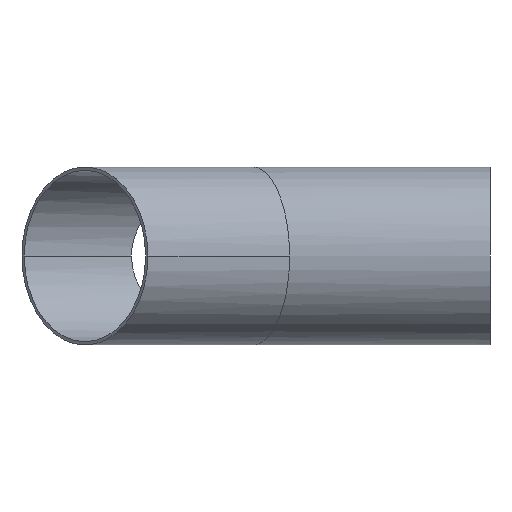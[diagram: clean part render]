
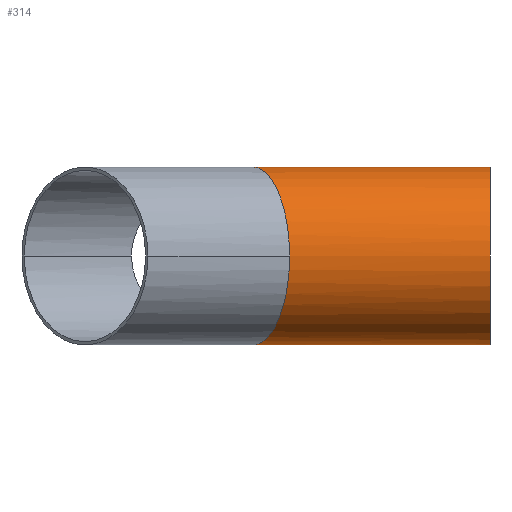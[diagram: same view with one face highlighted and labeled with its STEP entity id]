
A CAD part, left-side view. The second image highlights one B-rep face of the part: STEP entity #314.
In plain terms, the highlighted cylindrical face has radius 76.2 mm (diameter 152.4 mm), a partial arc.
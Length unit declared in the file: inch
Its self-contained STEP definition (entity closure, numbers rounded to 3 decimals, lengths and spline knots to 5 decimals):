
#16 = VECTOR ( 'NONE', #265, 39.37008 ) ;
#17 = CARTESIAN_POINT ( 'NONE',  ( 0., 8., -3. ) ) ;
#36 = FACE_OUTER_BOUND ( 'NONE', #183, .T. ) ;
#48 = DIRECTION ( 'NONE',  ( 0., 0., -1. ) ) ;
#51 = ORIENTED_EDGE ( 'NONE', *, *, #198, .T. ) ;
#52 = DIRECTION ( 'NONE',  ( 0., -1., 0. ) ) ;
#67 = VERTEX_POINT ( 'NONE', #431 ) ;
#76 = CIRCLE ( 'NONE', #489, 3. ) ;
#81 = CARTESIAN_POINT ( 'NONE',  ( -3., 6.75736, 0. ) ) ;
#92 = DIRECTION ( 'NONE',  ( 0., -1., 0. ) ) ;
#128 = LINE ( 'NONE', #138, #16 ) ;
#129 = VERTEX_POINT ( 'NONE', #521 ) ;
#130 = CARTESIAN_POINT ( 'NONE',  ( -3., 6.75736, -1.75736 ) ) ;
#136 = ORIENTED_EDGE ( 'NONE', *, *, #240, .T. ) ;
#138 = CARTESIAN_POINT ( 'NONE',  ( 0., 8., -3. ) ) ;
#143 = VERTEX_POINT ( 'NONE', #356 ) ;
#149 = CARTESIAN_POINT ( 'NONE',  ( 0., 8., 3. ) ) ;
#152 = CARTESIAN_POINT ( 'NONE',  ( -1.75736, 7.27208, 3. ) ) ;
#168 = CARTESIAN_POINT ( 'NONE',  ( 0., 8., -3. ) ) ;
#183 = EDGE_LOOP ( 'NONE', ( #436, #136, #226, #461, #51 ) ) ;
#194 = CARTESIAN_POINT ( 'NONE',  ( 0., 0., 0. ) ) ;
#198 = EDGE_CURVE ( 'NONE', #67, #143, #76, .T. ) ;
#226 = ORIENTED_EDGE ( 'NONE', *, *, #499, .T. ) ;
#237 = DIRECTION ( 'NONE',  ( 0., 0., 1. ) ) ;
#240 = EDGE_CURVE ( 'NONE', #262, #129, #483, .T. ) ;
#261 = VECTOR ( 'NONE', #92, 39.37008 ) ;
#262 = VERTEX_POINT ( 'NONE', #149 ) ;
#265 = DIRECTION ( 'NONE',  ( 0., -1., 0. ) ) ;
#280 = CARTESIAN_POINT ( 'NONE',  ( -3., 6.75736, 0. ) ) ;
#291 = EDGE_CURVE ( 'NONE', #262, #143, #371, .T. ) ;
#314 = ADVANCED_FACE ( 'NONE', ( #36 ), #360, .T. ) ;
#352 = AXIS2_PLACEMENT_3D ( 'NONE', #463, #52, #48 ) ;
#353 = VERTEX_POINT ( 'NONE', #17 ) ;
#356 = CARTESIAN_POINT ( 'NONE',  ( 0., 0., 3. ) ) ;
#360 = CYLINDRICAL_SURFACE ( 'NONE', #352, 3. ) ;
#371 = LINE ( 'NONE', #503, #261 ) ;
#374 = EDGE_CURVE ( 'NONE', #353, #67, #128, .T. ) ;
#414 = CARTESIAN_POINT ( 'NONE',  ( -1.75736, 7.27208, -3. ) ) ;
#431 = CARTESIAN_POINT ( 'NONE',  ( 0., 0., -3. ) ) ;
#436 = ORIENTED_EDGE ( 'NONE', *, *, #291, .F. ) ;
#443 = CARTESIAN_POINT ( 'NONE',  ( 0., 8., 3. ) ) ;
#448 =( BOUNDED_CURVE ( )  B_SPLINE_CURVE ( 3, ( #81, #130, #414, #168 ),
 .UNSPECIFIED., .F., .F. ) 
 B_SPLINE_CURVE_WITH_KNOTS ( ( 4, 4 ),
 ( 0., 1.5708 ),
 .UNSPECIFIED. ) 
 CURVE ( )  GEOMETRIC_REPRESENTATION_ITEM ( )  RATIONAL_B_SPLINE_CURVE ( ( 1., 0.805, 0.805, 1. ) ) 
 REPRESENTATION_ITEM ( '' )  );
#461 = ORIENTED_EDGE ( 'NONE', *, *, #374, .T. ) ;
#463 = CARTESIAN_POINT ( 'NONE',  ( 0., 8., 0. ) ) ;
#480 = DIRECTION ( 'NONE',  ( 0., 1., 0. ) ) ;
#483 =( BOUNDED_CURVE ( )  B_SPLINE_CURVE ( 3, ( #443, #152, #529, #280 ),
 .UNSPECIFIED., .F., .F. ) 
 B_SPLINE_CURVE_WITH_KNOTS ( ( 4, 4 ),
 ( 4.71239, 6.28319 ),
 .UNSPECIFIED. ) 
 CURVE ( )  GEOMETRIC_REPRESENTATION_ITEM ( )  RATIONAL_B_SPLINE_CURVE ( ( 1., 0.805, 0.805, 1. ) ) 
 REPRESENTATION_ITEM ( '' )  );
#489 = AXIS2_PLACEMENT_3D ( 'NONE', #194, #480, #237 ) ;
#499 = EDGE_CURVE ( 'NONE', #129, #353, #448, .T. ) ;
#503 = CARTESIAN_POINT ( 'NONE',  ( 0., 8., 3. ) ) ;
#521 = CARTESIAN_POINT ( 'NONE',  ( -3., 6.75736, 0. ) ) ;
#529 = CARTESIAN_POINT ( 'NONE',  ( -3., 6.75736, 1.75736 ) ) ;
